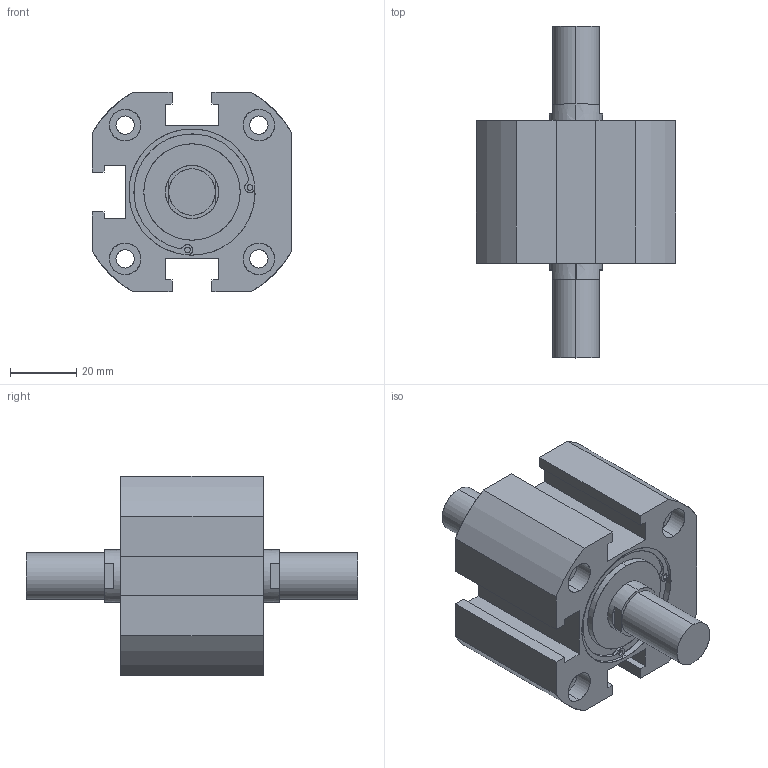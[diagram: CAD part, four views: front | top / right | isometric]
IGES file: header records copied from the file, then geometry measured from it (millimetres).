
Start section: SolidWorks IGES file using analytic representation for surfaces
Global section: file name: C:\Users\Toshiba\Desktop\XG#M7-40-10.IGS; native system: SolidWorks 2014; preprocessor: SolidWorks 2014; author: Toshiba; date: 160524.102351; units: millimetre
Bounding box: 60 x 100 x 60 mm (x, y, z)
Surface area: 26014 mm2 (no closed solid volume)
Topology: 0 solids, 0 shells, 149 faces, 2752 edges, 2748 vertices
Faces by surface type: revolution 85, bspline 64
